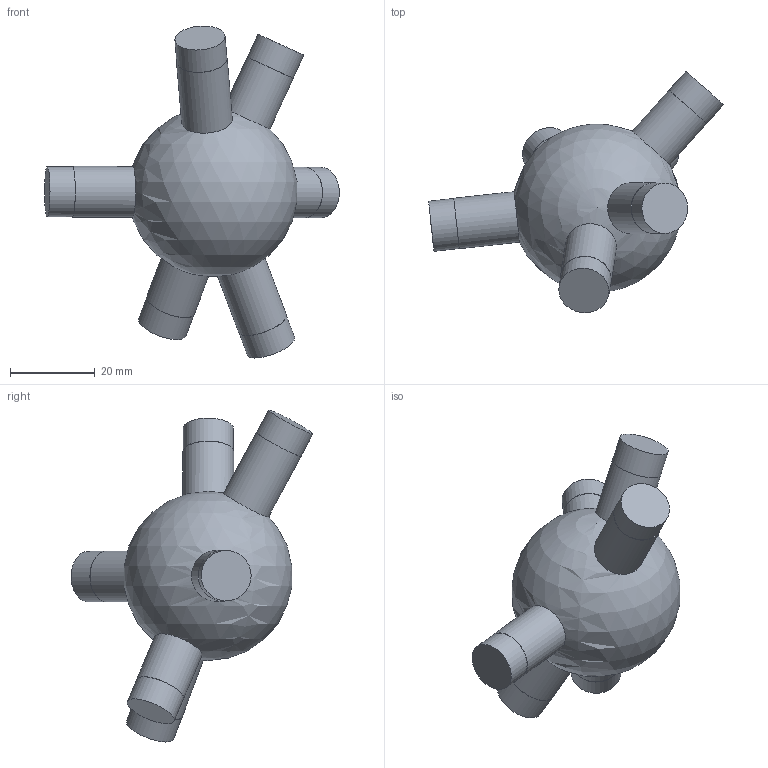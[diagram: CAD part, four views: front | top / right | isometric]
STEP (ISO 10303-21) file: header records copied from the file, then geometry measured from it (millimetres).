
FILE_DESCRIPTION(('Open CASCADE Model'),'2;1');
FILE_NAME('Open CASCADE Shape Model','2026-10-21T12:47:57',('Author'),( 'Open CASCADE'),'Open CASCADE STEP processor 7.9','Open CASCADE 7.9' ,'Unknown');
FILE_SCHEMA(('AUTOMOTIVE_DESIGN { 1 0 10303 214 1 1 1 1 }'));
Length unit declared in the file: millimetre
Products named in the file (1): Open CASCADE STEP translator 7.9 22
Bounding box: 69.71 x 57.14 x 78.48 mm (x, y, z)
Volume: 46795.1 mm3; surface area: 9555 mm2
Topology: 1 solids, 1 shells, 25 faces, 41 edges, 28 vertices
Faces by surface type: cylinder 12, plane 12, sphere 1
Full cylindrical faces by diameter (mm): 11.9 x6, 12 x6
Entity records: 1596 total; most frequent: CARTESIAN_POINT 662, DIRECTION 192, ORIENTED_EDGE 80, PCURVE 80, DEFINITIONAL_REPRESENTATION 80, LINE 66, VECTOR 66, AXIS2_PLACEMENT_3D 54
